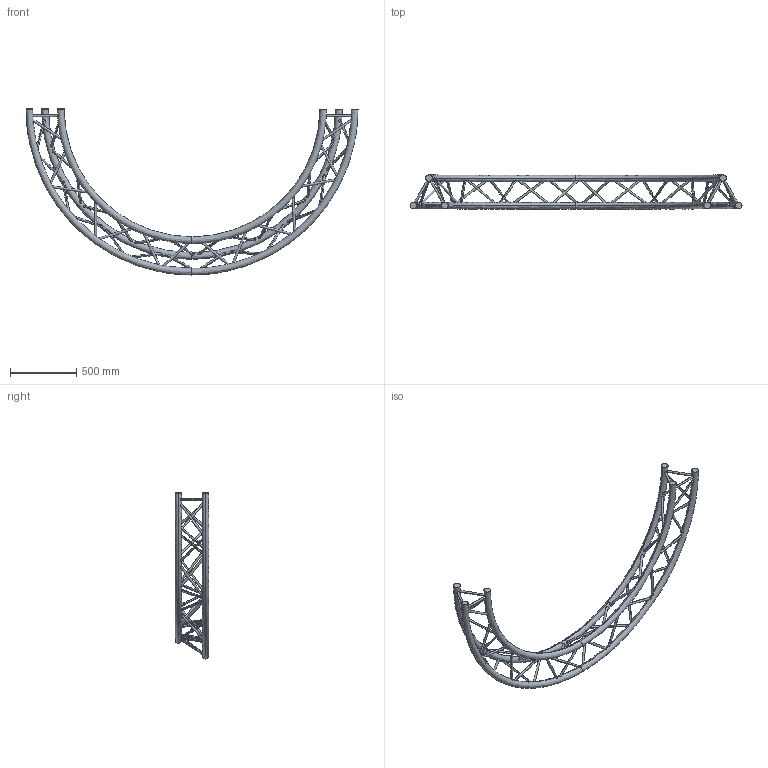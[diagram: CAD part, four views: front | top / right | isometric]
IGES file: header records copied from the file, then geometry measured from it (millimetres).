
Start section: SolidWorks IGES file using analytic representation for surfaces
Global section: file name: K:\BIBLIO\asd_biblio\SX290\Cercles\SXC29250PH\SXC29250PH.IGS; native system: SolidWorks 2009; preprocessor: SolidWorks 2009; author: des3; date: 091021.102510; units: millimetre
Bounding box: 2500 x 255.25 x 1250 mm (x, y, z)
Surface area: 2234631.2 mm2 (no closed solid volume)
Topology: 0 solids, 0 shells, 114 faces, 7762 edges, 7762 vertices
Faces by surface type: revolution 96, bspline 18
